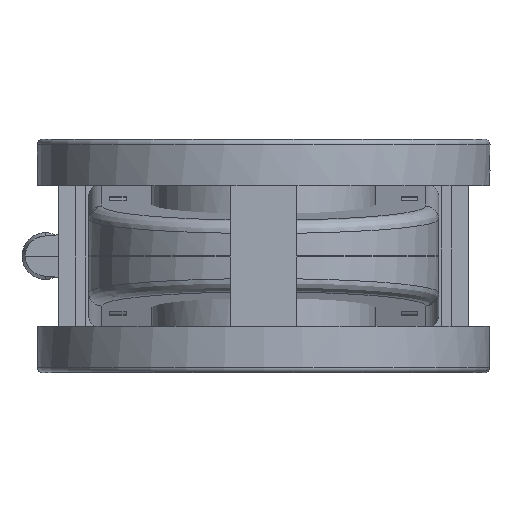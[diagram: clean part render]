
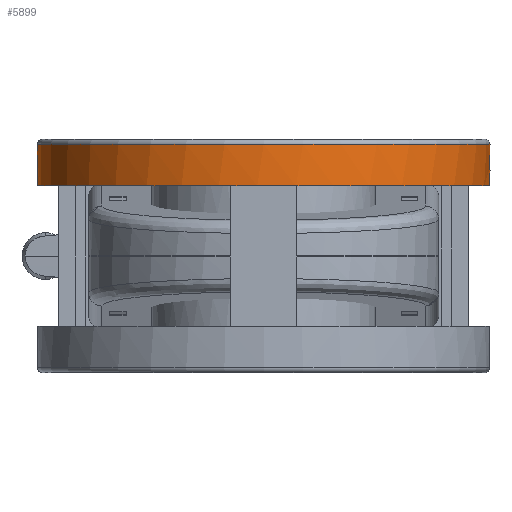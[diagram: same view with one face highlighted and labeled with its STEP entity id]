
A CAD part, front view. The second image highlights one B-rep face of the part: STEP entity #5899.
In plain terms, the highlighted cylindrical face has radius 67.9 mm (diameter 135.8 mm), a full revolution.
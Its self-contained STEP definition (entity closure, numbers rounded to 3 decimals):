
#3548=ELLIPSE('',#21342,135.8,67.9);
#3549=ELLIPSE('',#21343,135.8,67.9);
#3550=ELLIPSE('',#21345,135.8,67.9);
#3551=ELLIPSE('',#21347,135.8,67.9);
#3552=ELLIPSE('',#21349,68.159,67.9);
#3896=CYLINDRICAL_SURFACE('',#21350,67.9);
#4986=FACE_BOUND('',#7822,.T.);
#4987=FACE_BOUND('',#7823,.T.);
#4988=FACE_BOUND('',#7824,.T.);
#4989=FACE_BOUND('',#7825,.T.);
#5899=ADVANCED_FACE('',(#4986,#4987,#4988,#4989),#3896,.T.);
#7822=EDGE_LOOP('',(#15160,#15161,#15162));
#7823=EDGE_LOOP('',(#15163,#15164,#15165));
#7824=EDGE_LOOP('',(#15166,#15167));
#7825=EDGE_LOOP('',(#15168));
#15160=ORIENTED_EDGE('',*,*,#19082,.T.);
#15161=ORIENTED_EDGE('',*,*,#19083,.T.);
#15162=ORIENTED_EDGE('',*,*,#19084,.T.);
#15163=ORIENTED_EDGE('',*,*,#19085,.T.);
#15164=ORIENTED_EDGE('',*,*,#19086,.T.);
#15165=ORIENTED_EDGE('',*,*,#19087,.T.);
#15166=ORIENTED_EDGE('',*,*,#19088,.F.);
#15167=ORIENTED_EDGE('',*,*,#19089,.T.);
#15168=ORIENTED_EDGE('',*,*,#19081,.T.);
#16824=VERTEX_POINT('',#32662);
#16825=VERTEX_POINT('',#32665);
#16826=VERTEX_POINT('',#32666);
#16827=VERTEX_POINT('',#32668);
#16828=VERTEX_POINT('',#32671);
#16829=VERTEX_POINT('',#32672);
#16830=VERTEX_POINT('',#32674);
#16831=VERTEX_POINT('',#32677);
#16832=VERTEX_POINT('',#32678);
#19081=EDGE_CURVE('',#16824,#16824,#19823,.T.);
#19082=EDGE_CURVE('',#16825,#16826,#3548,.T.);
#19083=EDGE_CURVE('',#16826,#16827,#3549,.T.);
#19084=EDGE_CURVE('',#16827,#16825,#19824,.T.);
#19085=EDGE_CURVE('',#16828,#16829,#3550,.T.);
#19086=EDGE_CURVE('',#16829,#16830,#19825,.T.);
#19087=EDGE_CURVE('',#16830,#16828,#3551,.T.);
#19088=EDGE_CURVE('',#16831,#16832,#19826,.T.);
#19089=EDGE_CURVE('',#16831,#16832,#3552,.T.);
#19823=CIRCLE('',#21340,67.9);
#19824=CIRCLE('',#21344,67.9);
#19825=CIRCLE('',#21346,67.9);
#19826=CIRCLE('',#21348,67.9);
#21340=AXIS2_PLACEMENT_3D('',#32661,#25842,#25843);
#21342=AXIS2_PLACEMENT_3D('',#32664,#25846,#25847);
#21343=AXIS2_PLACEMENT_3D('',#32667,#25848,#25849);
#21344=AXIS2_PLACEMENT_3D('',#32669,#25850,#25851);
#21345=AXIS2_PLACEMENT_3D('',#32670,#25852,#25853);
#21346=AXIS2_PLACEMENT_3D('',#32673,#25854,#25855);
#21347=AXIS2_PLACEMENT_3D('',#32675,#25856,#25857);
#21348=AXIS2_PLACEMENT_3D('',#32676,#25858,#25859);
#21349=AXIS2_PLACEMENT_3D('',#32679,#25860,#25861);
#21350=AXIS2_PLACEMENT_3D('',#32680,#25862,#25863);
#25842=DIRECTION('',(0.,-1.,0.));
#25843=DIRECTION('',(0.,0.,-1.));
#25846=DIRECTION('',(-0.866,-0.5,0.));
#25847=DIRECTION('',(0.5,-0.866,0.));
#25848=DIRECTION('',(0.866,-0.5,0.));
#25849=DIRECTION('',(-0.5,-0.866,0.));
#25850=DIRECTION('',(0.,1.,0.));
#25851=DIRECTION('',(0.,0.,1.));
#25852=DIRECTION('',(-0.866,-0.5,0.));
#25853=DIRECTION('',(0.5,-0.866,0.));
#25854=DIRECTION('',(0.,1.,0.));
#25855=DIRECTION('',(0.,0.,1.));
#25856=DIRECTION('',(0.866,-0.5,0.));
#25857=DIRECTION('',(-0.5,-0.866,0.));
#25858=DIRECTION('',(0.,-1.,0.));
#25859=DIRECTION('',(0.,0.,-1.));
#25860=DIRECTION('',(-0.087,0.996,0.));
#25861=DIRECTION('',(-0.996,-0.087,0.));
#25862=DIRECTION('',(0.,-1.,0.));
#25863=DIRECTION('',(0.,0.,-1.));
#32661=CARTESIAN_POINT('',(0.,12.5,0.));
#32662=CARTESIAN_POINT('',(0.,12.5,-67.9));
#32664=CARTESIAN_POINT('',(0.,4.5,0.));
#32665=CARTESIAN_POINT('',(-2.598,9.,-67.85));
#32666=CARTESIAN_POINT('',(0.,4.5,-67.9));
#32667=CARTESIAN_POINT('',(0.,4.5,0.));
#32668=CARTESIAN_POINT('',(2.598,9.,-67.85));
#32669=CARTESIAN_POINT('',(0.,9.,0.));
#32670=CARTESIAN_POINT('',(0.,4.5,0.));
#32671=CARTESIAN_POINT('',(0.,4.5,67.9));
#32672=CARTESIAN_POINT('',(-2.598,9.,67.85));
#32673=CARTESIAN_POINT('',(0.,9.,0.));
#32674=CARTESIAN_POINT('',(2.598,9.,67.85));
#32675=CARTESIAN_POINT('',(0.,4.5,0.));
#32676=CARTESIAN_POINT('',(0.,0.,0.));
#32677=CARTESIAN_POINT('',(61.784,0.,28.163));
#32678=CARTESIAN_POINT('',(61.784,0.,-28.163));
#32679=CARTESIAN_POINT('',(0.,-5.405,0.));
#32680=CARTESIAN_POINT('',(0.,0.,0.));
